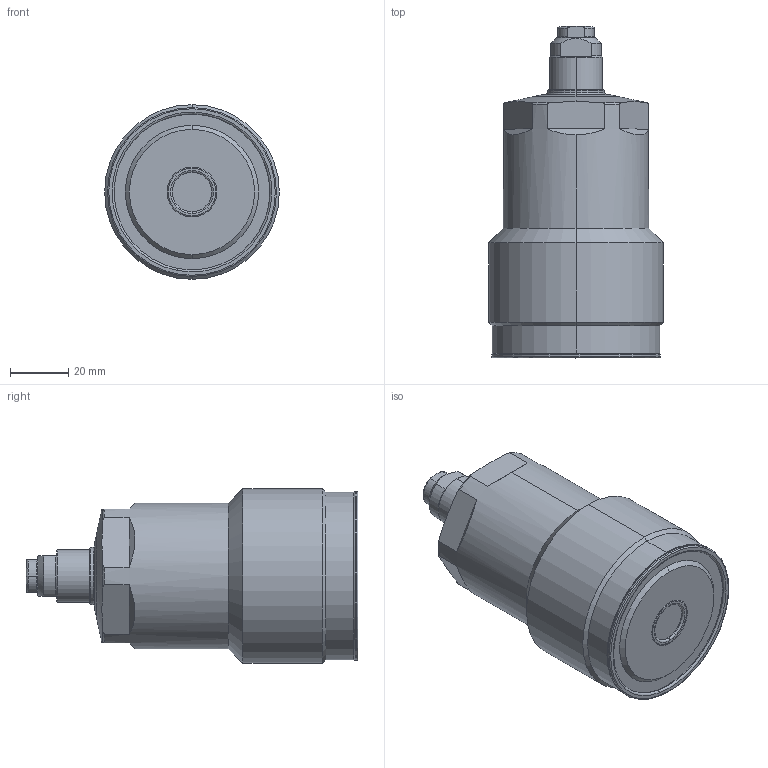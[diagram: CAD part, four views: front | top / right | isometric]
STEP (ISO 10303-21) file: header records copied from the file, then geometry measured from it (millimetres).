
FILE_DESCRIPTION(/* description */ (''),/* implementation_level */ '2;1');
FILE_NAME(/* name */ 'TNE60.stp',/* time_stamp */ '2026-02-04T14:31:00+08:00',/* author */ (''),/* organization */ (''),/* preprocessor_version */ 'ST-DEVELOPER v16.7',/* originating_system */ 'SIEMENS PLM Software NX 12.0',/* authorisation */ '');
FILE_SCHEMA (('AUTOMOTIVE_DESIGN { 1 0 10303 214 3 1 1 1 }'));
Length unit declared in the file: millimetre
Products named in the file (7): XLC-M10_contactbolt; XLC-M10_Oring; TNE60-02; TNE60-01; TNE60-04; TNE60-03; WNC6003-x-E_step
Assembly tree (6 placements, depth 3):
  WNC6003-x-E_step
    TNE60-04
    TNE60-03
      XLC-M10_Oring
      XLC-M10_contactbolt
    TNE60-01
    TNE60-02
Bounding box: 60 x 114 x 60 mm (x, y, z)
Volume: 207997.8 mm3; surface area: 24309 mm2
Topology: 5 solids, 5 shells, 154 faces, 342 edges, 208 vertices
Faces by surface type: torus 50, cylinder 41, plane 37, cone 24, sphere 2
Entity records: 4775 total; most frequent: CARTESIAN_POINT 1113, DIRECTION 827, ORIENTED_EDGE 684, AXIS2_PLACEMENT_3D 368, EDGE_CURVE 342, VERTEX_POINT 208, CIRCLE 207, EDGE_LOOP 170
